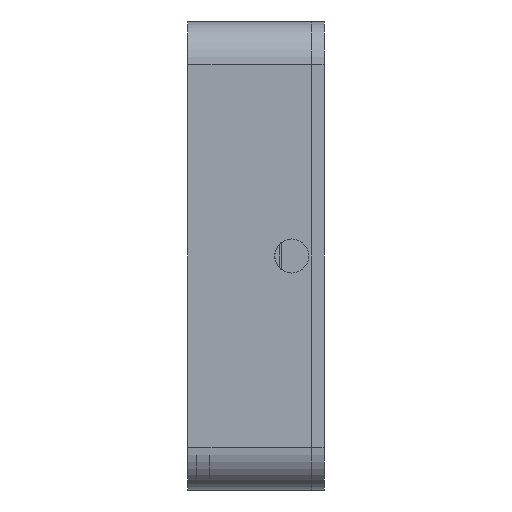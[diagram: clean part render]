
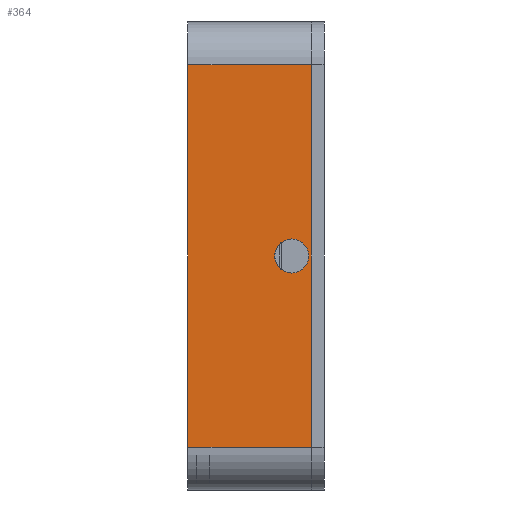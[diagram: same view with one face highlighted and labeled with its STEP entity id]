
A CAD part, left-side view. The second image highlights one B-rep face of the part: STEP entity #364.
In plain terms, the highlighted planar face has unit normal (-1, 0, 0).
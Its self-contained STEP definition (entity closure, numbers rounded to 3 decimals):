
#68 = ORIENTED_EDGE ( 'NONE', *, *, #1751, .T. ) ;
#148 = VERTEX_POINT ( 'NONE', #1254 ) ;
#187 = CARTESIAN_POINT ( 'NONE',  ( -23.5, 16., -22.5 ) ) ;
#191 = ORIENTED_EDGE ( 'NONE', *, *, #1305, .F. ) ;
#231 = EDGE_CURVE ( 'NONE', #3061, #148, #799, .T. ) ;
#316 = AXIS2_PLACEMENT_3D ( 'NONE', #2085, #2106, #3480 ) ;
#359 = ORIENTED_EDGE ( 'NONE', *, *, #2890, .T. ) ;
#364 = ADVANCED_FACE ( 'NONE', ( #1195, #536 ), #655, .F. ) ;
#402 = DIRECTION ( 'NONE',  ( 0., 1., 0. ) ) ;
#536 = FACE_BOUND ( 'NONE', #1354, .T. ) ;
#548 = VECTOR ( 'NONE', #1308, 1000. ) ;
#655 = PLANE ( 'NONE',  #1746 ) ;
#682 = CARTESIAN_POINT ( 'NONE',  ( -23.5, 16., -22.5 ) ) ;
#799 = LINE ( 'NONE', #2910, #1934 ) ;
#1195 = FACE_OUTER_BOUND ( 'NONE', #1634, .T. ) ;
#1254 = CARTESIAN_POINT ( 'NONE',  ( -23.5, 1.5, 22.5 ) ) ;
#1305 = EDGE_CURVE ( 'NONE', #1670, #3170, #3341, .T. ) ;
#1308 = DIRECTION ( 'NONE',  ( 0., -1., 0. ) ) ;
#1321 = CARTESIAN_POINT ( 'NONE',  ( -23.5, 16., -22.5 ) ) ;
#1354 = EDGE_LOOP ( 'NONE', ( #1532, #191 ) ) ;
#1362 = CARTESIAN_POINT ( 'NONE',  ( -23.5, 3.8, 2. ) ) ;
#1371 = CARTESIAN_POINT ( 'NONE',  ( -23.5, 16., 22.5 ) ) ;
#1520 = CARTESIAN_POINT ( 'NONE',  ( -23.5, 16., -22.5 ) ) ;
#1532 = ORIENTED_EDGE ( 'NONE', *, *, #3443, .F. ) ;
#1582 = EDGE_CURVE ( 'NONE', #1657, #3061, #2341, .T. ) ;
#1634 = EDGE_LOOP ( 'NONE', ( #359, #1800, #2425, #68 ) ) ;
#1657 = VERTEX_POINT ( 'NONE', #1321 ) ;
#1670 = VERTEX_POINT ( 'NONE', #3521 ) ;
#1746 = AXIS2_PLACEMENT_3D ( 'NONE', #682, #2884, #402 ) ;
#1751 = EDGE_CURVE ( 'NONE', #1657, #2501, #2998, .T. ) ;
#1768 = AXIS2_PLACEMENT_3D ( 'NONE', #2593, #2570, #3444 ) ;
#1800 = ORIENTED_EDGE ( 'NONE', *, *, #231, .F. ) ;
#1884 = CARTESIAN_POINT ( 'NONE',  ( -23.5, 1.5, -22.5 ) ) ;
#1934 = VECTOR ( 'NONE', #3178, 1000. ) ;
#1993 = VECTOR ( 'NONE', #2363, 1000. ) ;
#2085 = CARTESIAN_POINT ( 'NONE',  ( -23.5, 3.8, 0. ) ) ;
#2106 = DIRECTION ( 'NONE',  ( -1., 0., 0. ) ) ;
#2341 = LINE ( 'NONE', #1520, #1993 ) ;
#2355 = CARTESIAN_POINT ( 'NONE',  ( -23.5, 1.5, -22.5 ) ) ;
#2363 = DIRECTION ( 'NONE',  ( 0., 0., 1. ) ) ;
#2373 = DIRECTION ( 'NONE',  ( 0., 0., 1. ) ) ;
#2425 = ORIENTED_EDGE ( 'NONE', *, *, #1582, .F. ) ;
#2501 = VERTEX_POINT ( 'NONE', #1884 ) ;
#2570 = DIRECTION ( 'NONE',  ( -1., 0., 0. ) ) ;
#2593 = CARTESIAN_POINT ( 'NONE',  ( -23.5, 3.8, 0. ) ) ;
#2785 = CIRCLE ( 'NONE', #316, 2. ) ;
#2884 = DIRECTION ( 'NONE',  ( 1., 0., 0. ) ) ;
#2890 = EDGE_CURVE ( 'NONE', #2501, #148, #3140, .T. ) ;
#2910 = CARTESIAN_POINT ( 'NONE',  ( -23.5, 16., 22.5 ) ) ;
#2998 = LINE ( 'NONE', #187, #548 ) ;
#3057 = VECTOR ( 'NONE', #2373, 1000. ) ;
#3061 = VERTEX_POINT ( 'NONE', #1371 ) ;
#3140 = LINE ( 'NONE', #2355, #3057 ) ;
#3170 = VERTEX_POINT ( 'NONE', #1362 ) ;
#3178 = DIRECTION ( 'NONE',  ( 0., -1., 0. ) ) ;
#3341 = CIRCLE ( 'NONE', #1768, 2. ) ;
#3443 = EDGE_CURVE ( 'NONE', #3170, #1670, #2785, .T. ) ;
#3444 = DIRECTION ( 'NONE',  ( 0., 0., 1. ) ) ;
#3480 = DIRECTION ( 'NONE',  ( 0., 0., 1. ) ) ;
#3521 = CARTESIAN_POINT ( 'NONE',  ( -23.5, 3.8, -2. ) ) ;
